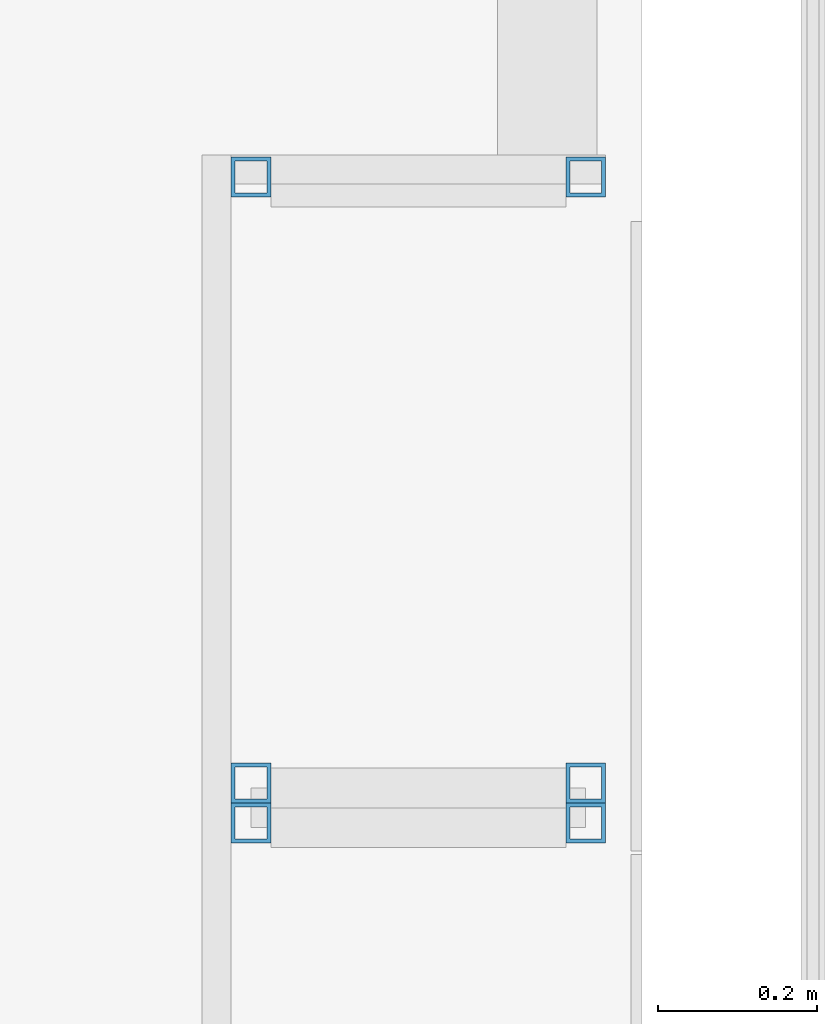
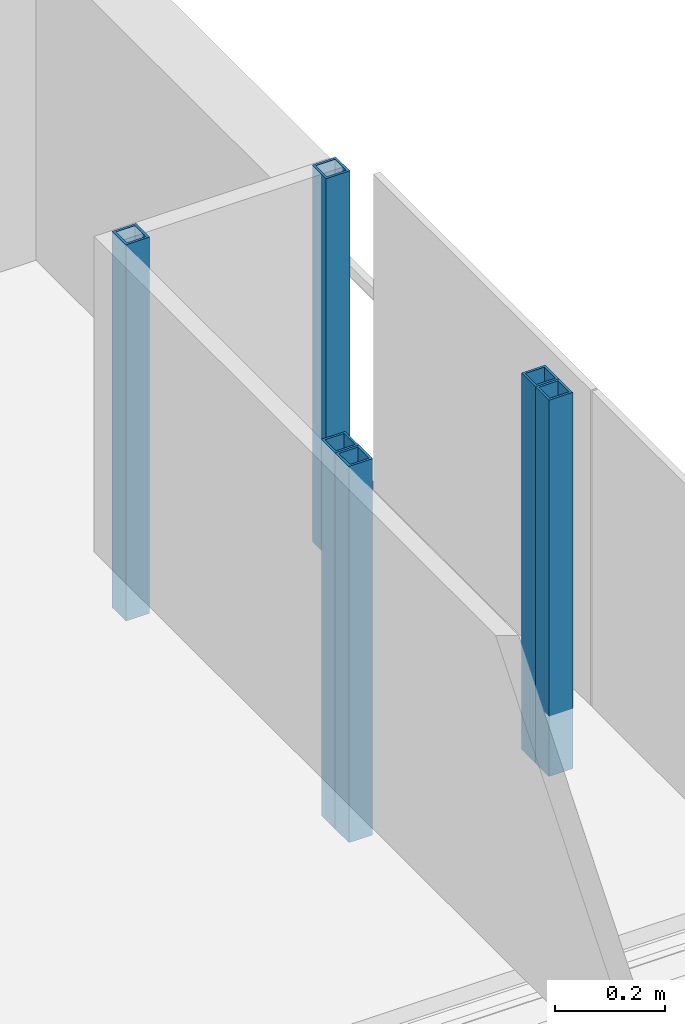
# One storey, part 6 of 18: 6 columns.
"""IFC2X3 building model written with IfcOpenShell, lengths in millimetres."""

from ifc_helpers import new_model, entity, si_unit, converted_unit, derived_unit, direction, frame, origin, origin_with_axes, place, context, subcontext, project, spatial, polyline, outline, extrude, source, transform, mapped, material, type_object, element, save


model = new_model("IFC2X3")

# Units and contexts
model_context = context("Model", 3, precision=0.01, world=frame((0.0, 4.29681676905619e-09, 0.0)), true_north=direction((4.01073788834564e-13, 1.0)))
plan_context = context("Plan", 3, precision=0.01, world=frame((0.0, 4.29681676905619e-09, 0.0)), true_north=direction((4.01073788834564e-13, 1.0)))
body_context = subcontext(model_context, "Body", "Model", "MODEL_VIEW")
ifc_project = project(units=[converted_unit("PLANEANGLEUNIT", "DEGREE", entity("IfcPositiveLengthMeasure", 0.0174532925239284), si_unit("PLANEANGLEUNIT", "RADIAN"), dimensions=[0, 0, 0, 0, 0, 0, 0]), si_unit("AREAUNIT", "SQUARE_METRE"), si_unit("LENGTHUNIT", "METRE", prefix="MILLI"), si_unit("MASSUNIT", "GRAM", prefix="KILO"), si_unit("POWERUNIT", "WATT"), si_unit("PRESSUREUNIT", "PASCAL"), si_unit("FORCEUNIT", "NEWTON", prefix="KILO"), si_unit("ELECTRICVOLTAGEUNIT", "VOLT"), si_unit("ELECTRICCURRENTUNIT", "AMPERE"), si_unit("THERMODYNAMICTEMPERATUREUNIT", "DEGREE_CELSIUS"), si_unit("TIMEUNIT", "SECOND"), si_unit("VOLUMEUNIT", "CUBIC_METRE"), derived_unit("LINEARVELOCITYUNIT", [(si_unit("LENGTHUNIT", "METRE"), 1), (si_unit("TIMEUNIT", "SECOND"), -1)]), derived_unit("VOLUMETRICFLOWRATEUNIT", [(si_unit("VOLUMEUNIT", "CUBIC_METRE"), 1), (si_unit("TIMEUNIT", "SECOND"), -1)]), derived_unit("THERMALTRANSMITTANCEUNIT", [(si_unit("POWERUNIT", "WATT"), 1), (si_unit("THERMODYNAMICTEMPERATUREUNIT", "KELVIN"), -1), (si_unit("AREAUNIT", "SQUARE_METRE"), -1)]), derived_unit("SOUNDPRESSUREUNIT", [(si_unit("PRESSUREUNIT", "PASCAL"), 1)])], contexts=[model_context, plan_context])

# Site, building, storey
site_placement = place(None, origin_with_axes())
site = spatial("IfcSite", under=ifc_project, at=site_placement, Name="ENGM", CompositionType="ELEMENT")
building_placement = place(site_placement, origin_with_axes())
building = spatial("IfcBuilding", under=site, at=building_placement, Name="TH", CompositionType="ELEMENT")
storey_placement = place(building_placement, frame((0.0, 0.0, 210200.0), z_axis=(0.0, 0.0, 1.0), x_axis=(1.0, 0.0, 0.0)))
storey = spatial("IfcBuildingStorey", under=building, at=storey_placement, Name="Nivå F - 0,7 m", CompositionType="ELEMENT", Elevation=210200.0)

# Columns
ifc_material = material(Name="_NSW Stål")
column_type = type_object("IfcColumnType", Name="B222 - HUP7:B222 - HUP 50x50x5", PredefinedType="COLUMN", material=ifc_material)
shared_shape = source(origin(), body_context, "Body", "SweptSolid", [
    extrude(outline(polyline([(-25.0, -25.0), (25.0, -25.0), (25.0, 25.0), (-25.0, 25.0), (-25.0, -25.0)]), holes=[polyline([(-20.0, -20.0), (-20.0, 20.0), (20.0, 20.0), (20.0, -20.0), (-20.0, -20.0)])]), frame((0.0, 0.0, 210065.0), z_axis=(0.0, 0.0, 1.0), x_axis=(-1.0, 0.0, 0.0)), (0.0, 0.0, 1.0), 835.000000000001),
])
for number, where, z_axis, x_axis in (
    (1, (909920.000000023, 486352.300951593, -210200.0), (0.0, 0.0, 1.0), (0.0, 1.0, 0.0)),
    (2, (910340.000000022, 486352.300951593, -210200.0), (0.0, 0.0, 1.0), (0.0, 1.0, 0.0)),
    (3, (909920.000000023, 485541.69464403, -210200.0), (0.0, 0.0, 1.0), (0.0, 1.0, 0.0)),
    (4, (910340.000000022, 485541.69464403, -210200.0), (0.0, 0.0, 1.0), (0.0, 1.0, 0.0)),
    (5, (909920.000000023, 485591.694644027, -210200.0), (0.0, 0.0, 1.0), (0.0, 1.0, 0.0)),
    (6, (910340.000000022, 485591.694644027, -210200.0), (0.0, 0.0, 1.0), (0.0, 1.0, 0.0)),
):
    element("IfcColumn", number, at=place(storey_placement, frame(where, z_axis=z_axis, x_axis=x_axis)), inside=storey, type_object=column_type, material=ifc_material, Name="B222 - HUP7:B222 - HUP 50x50x5", ObjectType="B222 - HUP7:B222 - HUP 50x50x5", context=body_context, shape_type="MappedRepresentation", body=[
        mapped(shared_shape, transform((0.0, 0.0, 0.0), scale=1.0)),
    ])

save(model, "model.ifc")
